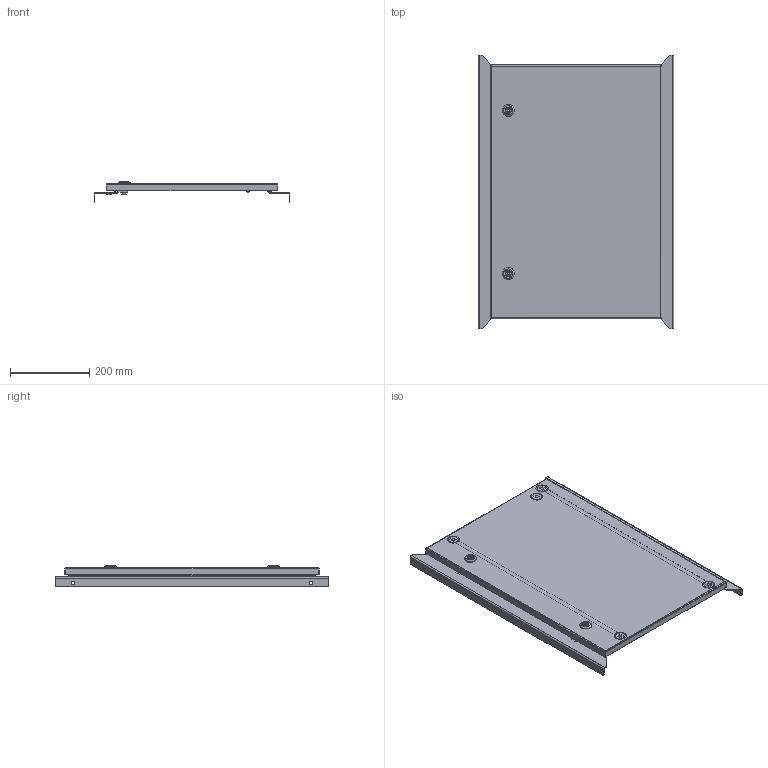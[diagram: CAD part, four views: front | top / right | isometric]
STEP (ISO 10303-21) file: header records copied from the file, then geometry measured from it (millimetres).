
FILE_DESCRIPTION (( 'STEP AP214' ), '1' );
FILE_NAME ('DVC 70.50.STEP', '2024-01-12T15:01:38', ( '' ), ( '' ), 'SwSTEP 2.0', 'SolidWorks 2019', '' );
FILE_SCHEMA (( 'AUTOMOTIVE_DESIGN' ));
Length unit declared in the file: millimetre
Products named in the file (1): DVC 70.50
Bounding box: 493 x 690 x 52.85 mm (x, y, z)
Volume: 771953.8 mm3; surface area: 1006733.7 mm2
Topology: 33 solids, 33 shells, 1505 faces, 3776 edges, 2367 vertices
Faces by surface type: cylinder 634, plane 573, cone 156, bspline 82, torus 48, sphere 12
Entity records: 87419 total; most frequent: CARTESIAN_POINT 35281, ORIENTED_EDGE 7524, DIRECTION 7170, EDGE_CURVE 3762, AXIS2_PLACEMENT_3D 2709, VERTEX_POINT 2367, LINE 1752, VECTOR 1752
